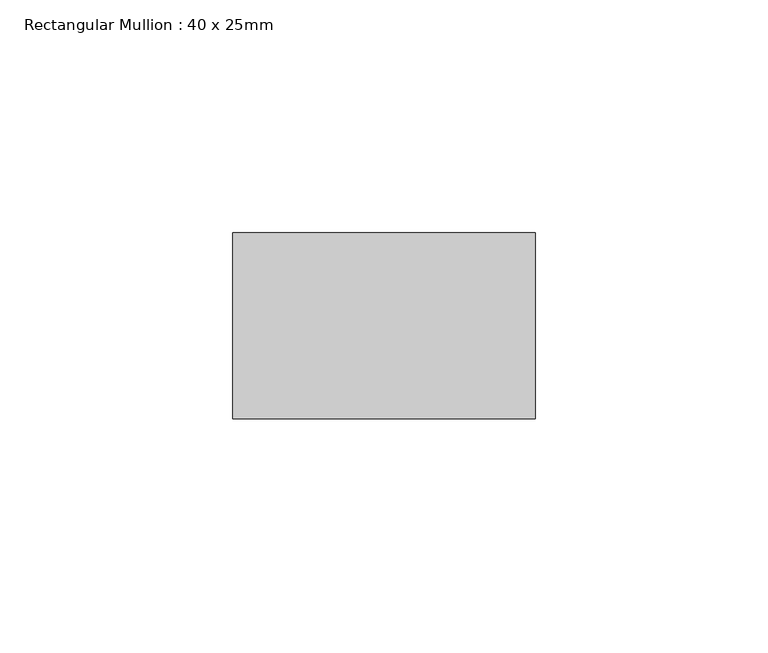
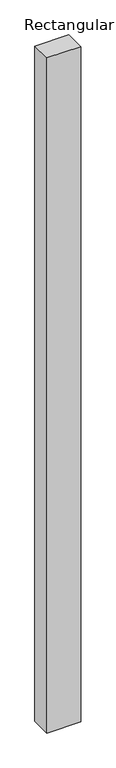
"""IFC4 building model written with IfcOpenShell, lengths in millimetres: member geometry, Rectangular Mullion : 40 x 25mm."""

from ifc_helpers import new_model, si_unit, frame, origin, place, context, project, spatial, polyline, outline, extrude, source, transform, mapped, element, save


def rectangular_mullion_40_x_25mm_63d095d3(model_context):
    return source(origin(), model_context, "Body", "SweptSolid", [
        extrude(outline(polyline([(0.0, -20.0), (0.0, -60.0), (-65.0, -60.0), (-65.0, -20.0), (0.0, -20.0)])), frame((0.0, 0.0, -1375.5), z_axis=(0.0, 0.0, 1.0), x_axis=(1.0, 0.0, 0.0)), (0.0, 0.0, 1.0), 1375.5),
    ])


if __name__ == "__main__":
    model = new_model("IFC4")
    model_context = context("Model", 3, world=origin())
    ifc_project = project(units=[si_unit("LENGTHUNIT", "METRE", prefix="MILLI")], contexts=[model_context])
    site = spatial("IfcSite", under=ifc_project)
    building = spatial("IfcBuilding", under=site)
    placement = place(None, origin())
    rectangular_mullion_40_x_25mm_shape = rectangular_mullion_40_x_25mm_63d095d3(model_context)
    element("IfcMember", 1, ObjectType="Rectangular Mullion : 40 x 25mm", at=placement, inside=building, context=model_context, shape_type="MappedRepresentation", body=[
        mapped(rectangular_mullion_40_x_25mm_shape, transform((0.0, 0.0, 0.0), x_axis=(1.0, 0.0, 0.0), y_axis=(0.0, 1.0, 0.0), z_axis=(0.0, 0.0, 1.0))),
    ])
    save(model, "model.ifc")
